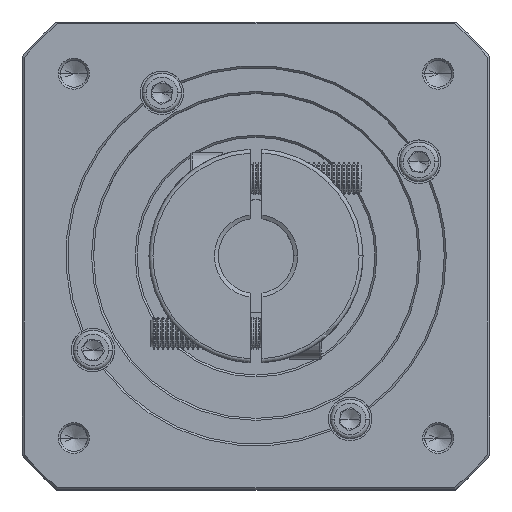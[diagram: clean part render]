
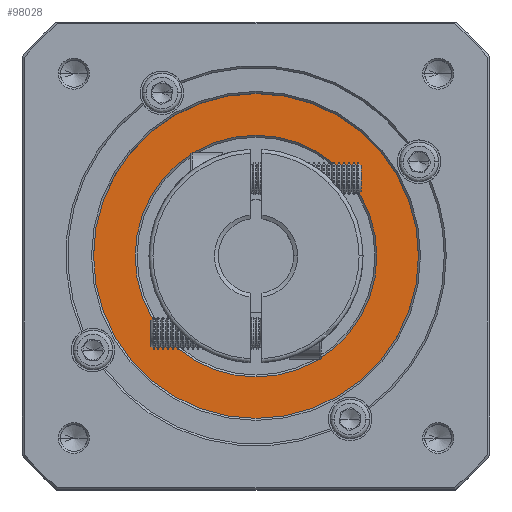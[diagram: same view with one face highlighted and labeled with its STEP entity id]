
A CAD part, top view. The second image highlights one B-rep face of the part: STEP entity #98028.
In plain terms, the highlighted planar face has unit normal (0, 0, 1).
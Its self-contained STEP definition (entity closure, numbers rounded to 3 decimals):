
#2275 = DIRECTION ( 'NONE',  ( 0., 0., -1. ) ) ;
#4203 = AXIS2_PLACEMENT_3D ( 'NONE', #64335, #7615, #73837 ) ;
#7615 = DIRECTION ( 'NONE',  ( 0., 0., 1. ) ) ;
#7956 = EDGE_LOOP ( 'NONE', ( #99642, #62692 ) ) ;
#8038 = CARTESIAN_POINT ( 'NONE',  ( 73.348, 169.359, 38.453 ) ) ;
#8729 = VERTEX_POINT ( 'NONE', #99188 ) ;
#8762 = CIRCLE ( 'NONE', #4203, 41. ) ;
#9131 = DIRECTION ( 'NONE',  ( 0., 0., 1. ) ) ;
#14641 = VERTEX_POINT ( 'NONE', #8038 ) ;
#16265 = CIRCLE ( 'NONE', #118344, 41. ) ;
#16351 = CARTESIAN_POINT ( 'NONE',  ( 73.348, 138.859, 38.453 ) ) ;
#18424 = CARTESIAN_POINT ( 'NONE',  ( 73.348, 108.359, 38.453 ) ) ;
#18773 = AXIS2_PLACEMENT_3D ( 'NONE', #59029, #2275, #68458 ) ;
#23535 = EDGE_CURVE ( 'NONE', #8729, #55315, #8762, .T. ) ;
#23708 = EDGE_CURVE ( 'NONE', #55315, #8729, #16265, .T. ) ;
#25916 = DIRECTION ( 'NONE',  ( 0., -1., 0. ) ) ;
#27792 = PLANE ( 'NONE',  #46776 ) ;
#29118 = CARTESIAN_POINT ( 'NONE',  ( 32.348, 138.859, 38.453 ) ) ;
#36233 = CIRCLE ( 'NONE', #18773, 30.5 ) ;
#36673 = CIRCLE ( 'NONE', #82069, 30.5 ) ;
#36960 = EDGE_CURVE ( 'NONE', #14641, #51111, #36233, .T. ) ;
#38215 = CARTESIAN_POINT ( 'NONE',  ( 73.348, 138.859, 38.453 ) ) ;
#46776 = AXIS2_PLACEMENT_3D ( 'NONE', #65852, #9131, #75353 ) ;
#47762 = DIRECTION ( 'NONE',  ( 1., 0., 0. ) ) ;
#51111 = VERTEX_POINT ( 'NONE', #18424 ) ;
#52072 = ORIENTED_EDGE ( 'NONE', *, *, #23535, .T. ) ;
#55315 = VERTEX_POINT ( 'NONE', #29118 ) ;
#59029 = CARTESIAN_POINT ( 'NONE',  ( 73.348, 138.859, 38.453 ) ) ;
#62692 = ORIENTED_EDGE ( 'NONE', *, *, #36960, .T. ) ;
#64335 = CARTESIAN_POINT ( 'NONE',  ( 73.348, 138.859, 38.453 ) ) ;
#64810 = ORIENTED_EDGE ( 'NONE', *, *, #23708, .T. ) ;
#65852 = CARTESIAN_POINT ( 'NONE',  ( 73.348, 138.859, 38.453 ) ) ;
#68458 = DIRECTION ( 'NONE',  ( 0., -1., 0. ) ) ;
#73837 = DIRECTION ( 'NONE',  ( 1., 0., 0. ) ) ;
#75353 = DIRECTION ( 'NONE',  ( 1., 0., 0. ) ) ;
#82069 = AXIS2_PLACEMENT_3D ( 'NONE', #16351, #82612, #25916 ) ;
#82612 = DIRECTION ( 'NONE',  ( 0., 0., -1. ) ) ;
#98028 = ADVANCED_FACE ( 'NONE', ( #100902, #103802 ), #27792, .T. ) ;
#99188 = CARTESIAN_POINT ( 'NONE',  ( 114.348, 138.859, 38.453 ) ) ;
#99642 = ORIENTED_EDGE ( 'NONE', *, *, #111783, .T. ) ;
#99773 = EDGE_LOOP ( 'NONE', ( #52072, #64810 ) ) ;
#100902 = FACE_OUTER_BOUND ( 'NONE', #99773, .T. ) ;
#103802 = FACE_BOUND ( 'NONE', #7956, .T. ) ;
#104376 = DIRECTION ( 'NONE',  ( 0., 0., 1. ) ) ;
#111783 = EDGE_CURVE ( 'NONE', #51111, #14641, #36673, .T. ) ;
#118344 = AXIS2_PLACEMENT_3D ( 'NONE', #38215, #104376, #47762 ) ;
